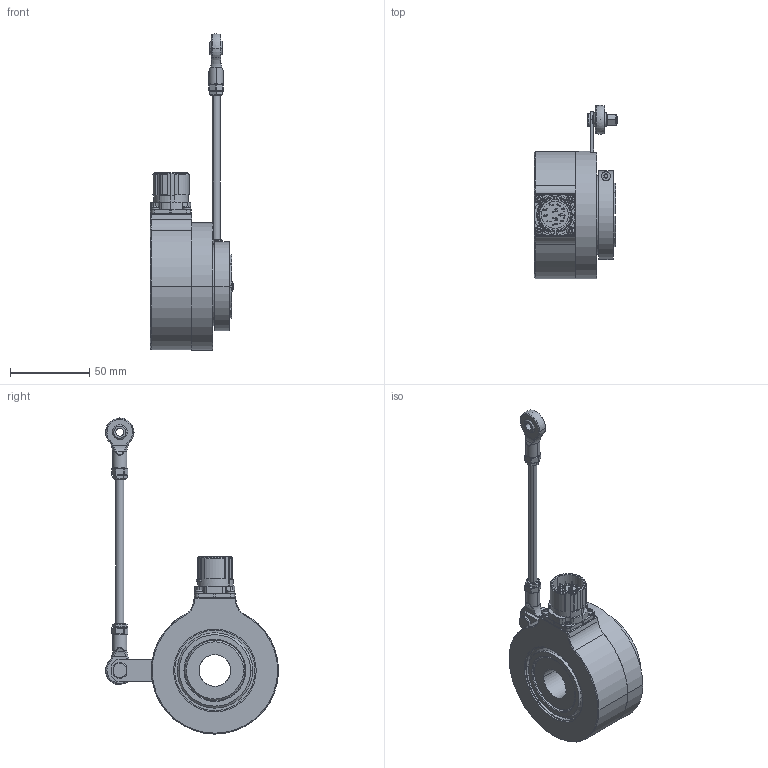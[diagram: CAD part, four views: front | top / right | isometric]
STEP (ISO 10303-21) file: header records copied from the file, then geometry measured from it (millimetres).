
FILE_DESCRIPTION (( 'STEP AP203' ), '1' );
FILE_NAME ('K80I.OXX.XXXXX.XH27820.6XRC4.step', '2025-12-09T12:46:34', ( '' ), ( '' ), 'SwSTEP 2.0', 'SolidWorks 2021', '' );
FILE_SCHEMA (( 'CONFIG_CONTROL_DESIGN' ));
Length unit declared in the file: millimetre
Products named in the file (1): K80I.OXX.XXXXX.XH27820.6XRC4
Bounding box: 52.6 x 108.97 x 199.07 mm (x, y, z)
Volume: 225481.3 mm3; surface area: 78441.4 mm2
Topology: 15 solids, 15 shells, 1077 faces, 2781 edges, 1748 vertices
Faces by surface type: plane 389, cylinder 343, bspline 148, cone 97, torus 52, sphere 48
Entity records: 40122 total; most frequent: CARTESIAN_POINT 14577, ORIENTED_EDGE 5426, DIRECTION 5204, EDGE_CURVE 2713, AXIS2_PLACEMENT_3D 1990, VERTEX_POINT 1741, LINE 1224, VECTOR 1224
